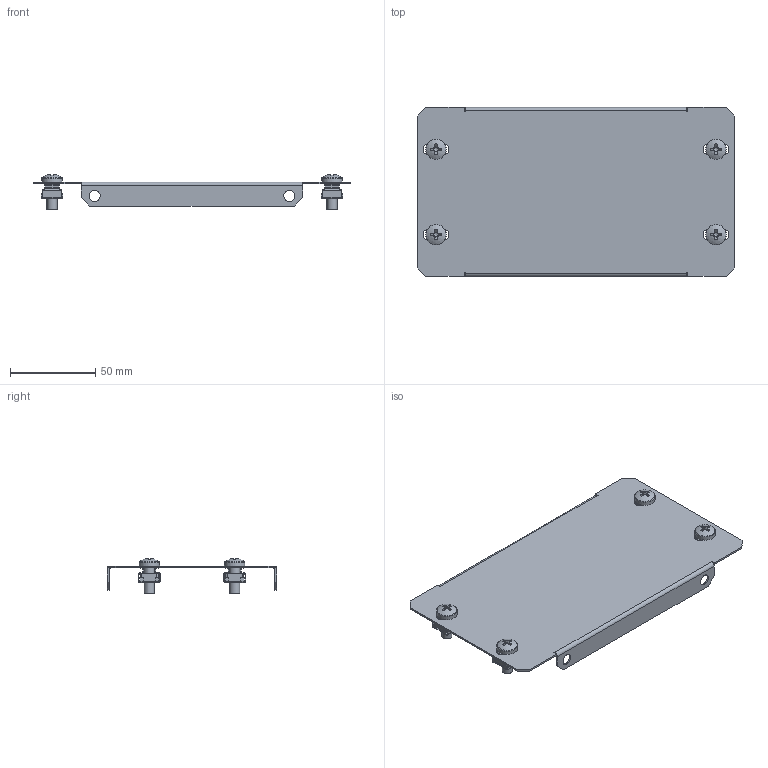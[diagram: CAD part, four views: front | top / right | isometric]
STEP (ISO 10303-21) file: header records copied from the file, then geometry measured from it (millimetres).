
FILE_DESCRIPTION (( 'STEP AP203' ), '1' );
FILE_NAME ('MA1.400.060000.01.00 Ïëàñòðîí Â100 Ø300 EKF AleSta-FP10M300.STEP', '2024-12-02T12:46:35', ( '' ), ( '' ), 'SwSTEP 2.0', 'SolidWorks 2021', '' );
FILE_SCHEMA (( 'CONFIG_CONTROL_DESIGN' ));
Length unit declared in the file: millimetre
Products named in the file (6): MA1.400.060000.01.01 Ïëàñòðîí Â50 Ø600 EKF AleSta_ ˜=300; Îáîëî÷êà ãàéêè çàêëàäíîé; Ãàéêà çàêëàäíàÿ; pan head cross recess screw_din_DIN EN ISO 7045 - M6 x 16 - Z - 16N; MA1.400.060000.01.00 Ïëàñòðîí Â100 Ø300 EKF AleSta-FP10M300; Ãàéêà çàêëàäêàÿ Ì6
Assembly tree (11 placements, depth 3):
  MA1.400.060000.01.00 Ïëàñòðîí Â100 Ø300 EKF AleSta-FP10M300
    MA1.400.060000.01.01 Ïëàñòðîí Â50 Ø600 EKF AleSta_ ˜=300
    Ãàéêà çàêëàäíàÿ  x4
      Îáîëî÷êà ãàéêè çàêëàäíîé
      Ãàéêà çàêëàäêàÿ Ì6
    pan head cross recess screw_din_DIN EN ISO 7045 - M6 x 16 - Z - 16N  x4
Bounding box: 186 x 99 x 20.48 mm (x, y, z)
Volume: 26356 mm3; surface area: 50349 mm2
Topology: 13 solids, 13 shells, 690 faces, 1534 edges, 874 vertices
Faces by surface type: plane 442, cylinder 144, bspline 64, cone 28, torus 8, sphere 4
Full cylindrical faces by diameter (mm): 6 x8, 6.5 x4, 7 x4, 12 x4
Entity records: 7404 total; most frequent: CARTESIAN_POINT 1669, DIRECTION 1010, ORIENTED_EDGE 1000, EDGE_CURVE 500, LINE 352, VECTOR 352, AXIS2_PLACEMENT_3D 329, VERTEX_POINT 300
